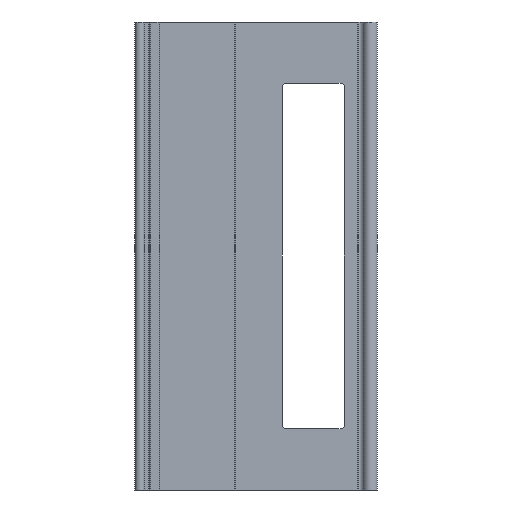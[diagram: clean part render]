
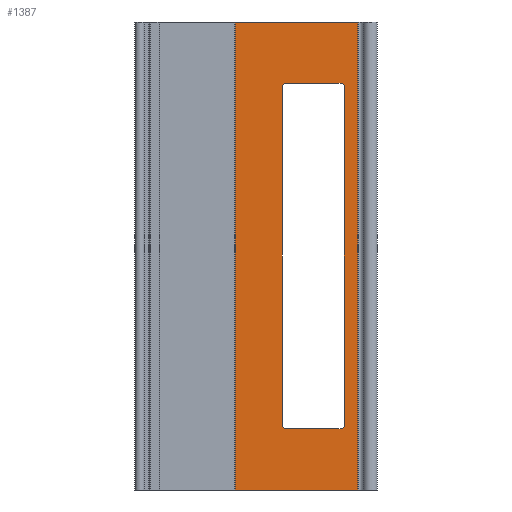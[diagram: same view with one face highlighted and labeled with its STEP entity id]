
A CAD part, front view. The second image highlights one B-rep face of the part: STEP entity #1387.
In plain terms, the highlighted planar face has unit normal (0, -1, 0).
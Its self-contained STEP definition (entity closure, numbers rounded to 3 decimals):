
#326=DIRECTION('',(0.,0.,-1.));
#327=VECTOR('',#326,203.2);
#328=CARTESIAN_POINT('',(44.8,-2.05,203.2));
#329=LINE('',#328,#327);
#330=DIRECTION('',(-1.,0.,0.));
#331=VECTOR('',#330,53.3);
#332=CARTESIAN_POINT('',(44.8,-2.05,0.));
#333=LINE('',#332,#331);
#334=DIRECTION('',(0.,0.,-1.));
#335=VECTOR('',#334,203.2);
#336=CARTESIAN_POINT('',(-8.5,-2.05,203.2));
#337=LINE('',#336,#335);
#338=DIRECTION('',(1.,0.,0.));
#339=VECTOR('',#338,53.3);
#340=CARTESIAN_POINT('',(-8.5,-2.05,203.2));
#341=LINE('',#340,#339);
#342=DIRECTION('',(-1.,0.,0.));
#343=VECTOR('',#342,25.);
#344=CARTESIAN_POINT('',(37.886,-2.05,176.6));
#345=LINE('',#344,#343);
#346=DIRECTION('',(0.,0.,-1.));
#347=VECTOR('',#346,148.);
#348=CARTESIAN_POINT('',(11.886,-2.05,175.6));
#349=LINE('',#348,#347);
#350=DIRECTION('',(1.,0.,0.));
#351=VECTOR('',#350,25.);
#352=CARTESIAN_POINT('',(12.886,-2.05,26.6));
#353=LINE('',#352,#351);
#354=DIRECTION('',(0.,0.,1.));
#355=VECTOR('',#354,148.);
#356=CARTESIAN_POINT('',(38.886,-2.05,27.6));
#357=LINE('',#356,#355);
#599=DIRECTION('',(0.707,0.,-0.707));
#600=VECTOR('',#599,1.414);
#601=CARTESIAN_POINT('',(37.886,-2.05,176.6));
#602=LINE('',#601,#600);
#615=DIRECTION('',(-0.707,0.,-0.707));
#616=VECTOR('',#615,1.414);
#617=CARTESIAN_POINT('',(38.886,-2.05,27.6));
#618=LINE('',#617,#616);
#631=DIRECTION('',(-0.707,0.,0.707));
#632=VECTOR('',#631,1.414);
#633=CARTESIAN_POINT('',(12.886,-2.05,26.6));
#634=LINE('',#633,#632);
#647=DIRECTION('',(0.707,0.,0.707));
#648=VECTOR('',#647,1.414);
#649=CARTESIAN_POINT('',(11.886,-2.05,175.6));
#650=LINE('',#649,#648);
#731=CARTESIAN_POINT('',(-8.5,-2.05,0.));
#733=VERTEX_POINT('',#731);
#737=CARTESIAN_POINT('',(-8.5,-2.05,203.2));
#738=VERTEX_POINT('',#737);
#759=CARTESIAN_POINT('',(37.886,-2.05,176.6));
#761=VERTEX_POINT('',#759);
#763=CARTESIAN_POINT('',(38.886,-2.05,175.6));
#765=VERTEX_POINT('',#763);
#767=CARTESIAN_POINT('',(11.886,-2.05,175.6));
#769=VERTEX_POINT('',#767);
#771=CARTESIAN_POINT('',(12.886,-2.05,176.6));
#773=VERTEX_POINT('',#771);
#775=CARTESIAN_POINT('',(38.886,-2.05,27.6));
#777=VERTEX_POINT('',#775);
#779=CARTESIAN_POINT('',(37.886,-2.05,26.6));
#781=VERTEX_POINT('',#779);
#783=CARTESIAN_POINT('',(12.886,-2.05,26.6));
#785=VERTEX_POINT('',#783);
#787=CARTESIAN_POINT('',(11.886,-2.05,27.6));
#789=VERTEX_POINT('',#787);
#848=CARTESIAN_POINT('',(44.8,-2.05,0.));
#850=VERTEX_POINT('',#848);
#851=CARTESIAN_POINT('',(44.8,-2.05,203.2));
#852=VERTEX_POINT('',#851);
#1356=CARTESIAN_POINT('',(-4.,-2.05,0.));
#1357=DIRECTION('',(0.,-1.,0.));
#1358=DIRECTION('',(1.,0.,0.));
#1359=AXIS2_PLACEMENT_3D('',#1356,#1357,#1358);
#1360=PLANE('',#1359);
#1361=ORIENTED_EDGE('',*,*,#1348,.T.);
#1362=ORIENTED_EDGE('',*,*,#902,.T.);
#1364=ORIENTED_EDGE('',*,*,#1363,.F.);
#1366=ORIENTED_EDGE('',*,*,#1365,.T.);
#1367=EDGE_LOOP('',(#1361,#1362,#1364,#1366));
#1368=FACE_OUTER_BOUND('',#1367,.F.);
#1370=ORIENTED_EDGE('',*,*,#1369,.T.);
#1372=ORIENTED_EDGE('',*,*,#1371,.F.);
#1374=ORIENTED_EDGE('',*,*,#1373,.T.);
#1376=ORIENTED_EDGE('',*,*,#1375,.F.);
#1378=ORIENTED_EDGE('',*,*,#1377,.T.);
#1380=ORIENTED_EDGE('',*,*,#1379,.F.);
#1382=ORIENTED_EDGE('',*,*,#1381,.T.);
#1384=ORIENTED_EDGE('',*,*,#1383,.F.);
#1385=EDGE_LOOP('',(#1370,#1372,#1374,#1376,#1378,#1380,#1382,#1384));
#1386=FACE_BOUND('',#1385,.F.);
#1387=ADVANCED_FACE('',(#1368,#1386),#1360,.T.);
#902=EDGE_CURVE('',#850,#733,#333,.T.);
#1348=EDGE_CURVE('',#852,#850,#329,.T.);
#1363=EDGE_CURVE('',#738,#733,#337,.T.);
#1365=EDGE_CURVE('',#738,#852,#341,.T.);
#1369=EDGE_CURVE('',#761,#773,#345,.T.);
#1371=EDGE_CURVE('',#769,#773,#650,.T.);
#1373=EDGE_CURVE('',#769,#789,#349,.T.);
#1375=EDGE_CURVE('',#785,#789,#634,.T.);
#1377=EDGE_CURVE('',#785,#781,#353,.T.);
#1379=EDGE_CURVE('',#777,#781,#618,.T.);
#1381=EDGE_CURVE('',#777,#765,#357,.T.);
#1383=EDGE_CURVE('',#761,#765,#602,.T.);
